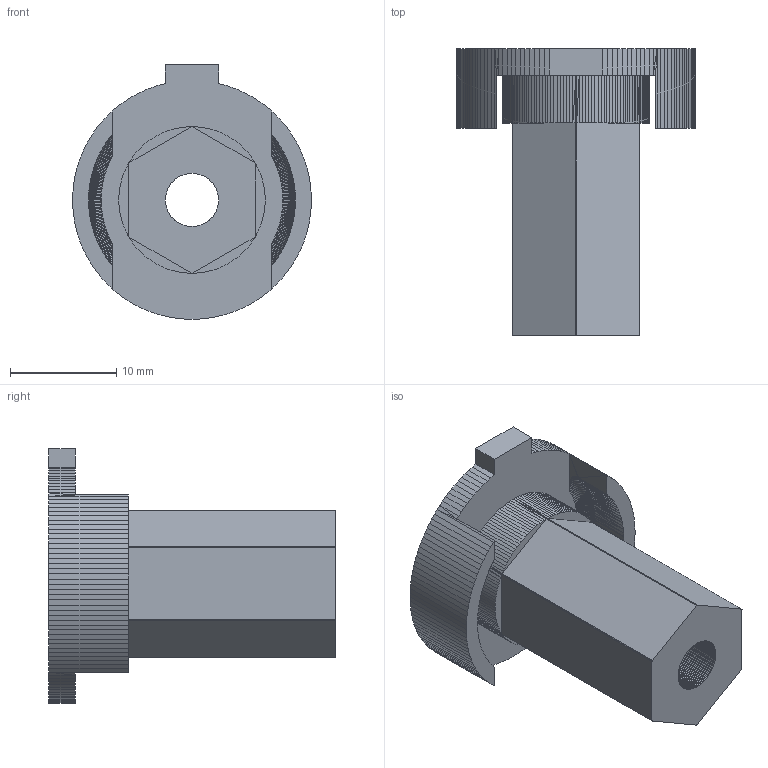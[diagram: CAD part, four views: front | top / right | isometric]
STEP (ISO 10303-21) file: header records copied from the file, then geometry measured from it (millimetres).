
FILE_DESCRIPTION(('Open CASCADE Model'),'2;1');
FILE_NAME('Open CASCADE Shape Model','2026-10-27T23:29:25',('Author'),( 'Open CASCADE'),'Open CASCADE STEP processor 7.9','Open CASCADE 7.9' ,'Unknown');
FILE_SCHEMA(('AUTOMOTIVE_DESIGN { 1 0 10303 214 1 1 1 1 }'));
Products named in the file (1): Open CASCADE STEP translator 7.9 1
Bounding box: 22.5 x 27 x 24 mm (x, y, z)
Volume: 3012.8 mm3; surface area: 3088 mm2
Topology: 1 solids, 1 shells, 9351 faces, 14935 edges, 5588 vertices
Faces by surface type: plane 9351
Entity records: 384710 total; most frequent: DIRECTION 63509, CARTESIAN_POINT 59745, LINE 44805, VECTOR 44805, ORIENTED_EDGE 29870, PCURVE 29870, DEFINITIONAL_REPRESENTATION 29870, EDGE_CURVE 14935
